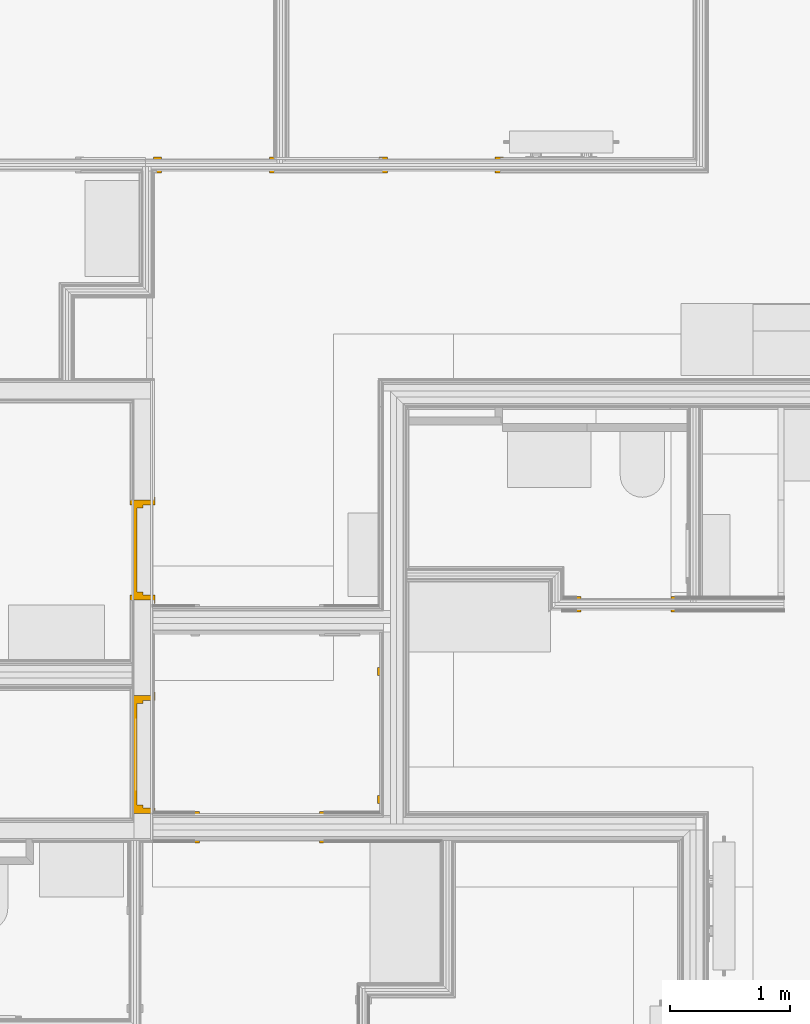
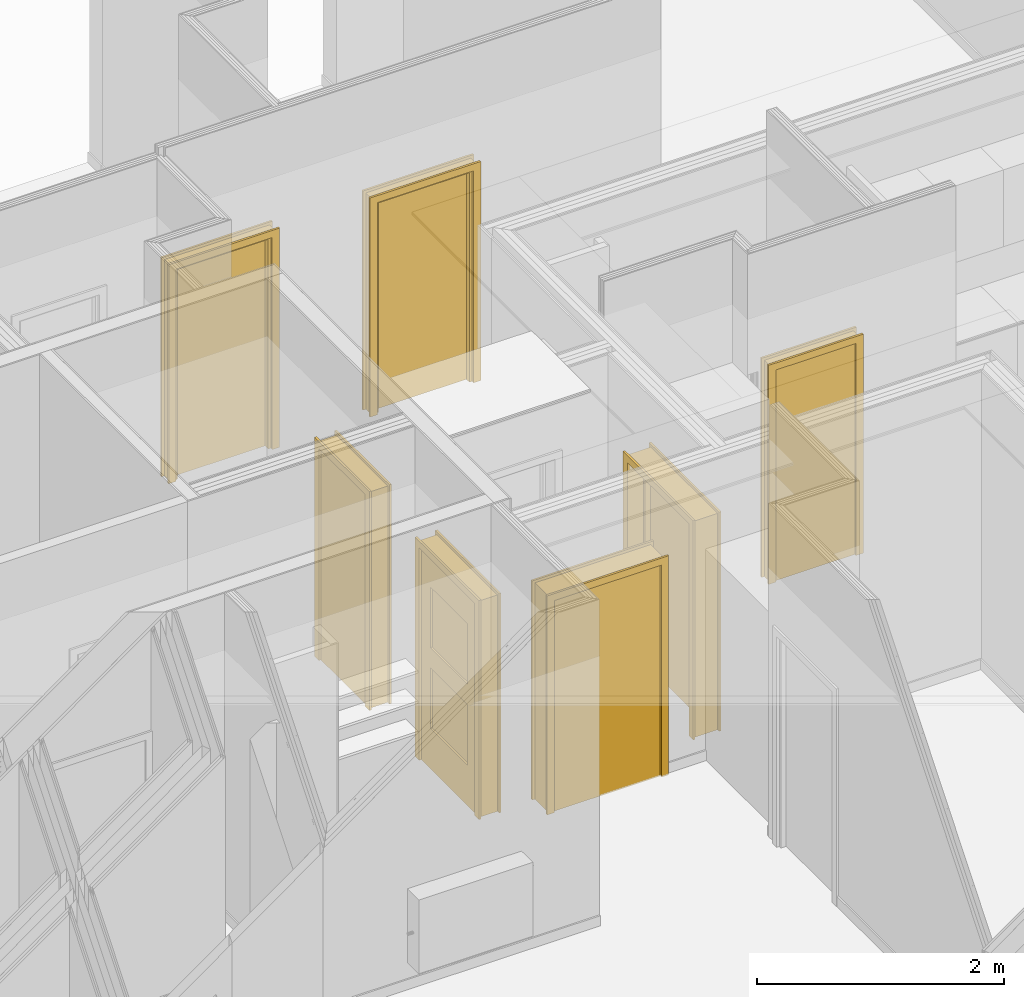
# One storey, part 54 of 64: 7 doors.
"""IFC2X3 building model written with IfcOpenShell, lengths in metres."""

from ifc_helpers import new_model, entity, si_unit, converted_unit, derived_unit, money_unit, direction, frame, origin_with_axes, place, context, subcontext, project, spatial, faceted_brep, material, type_object, element, save


model = new_model("IFC2X3")

# Units and contexts
model_context = context("Model", 3, precision=1e-05, world=origin_with_axes(), true_north=direction((0.0, 1.0)))
body_context = subcontext(model_context, "Body", "Model", "MODEL_VIEW", scale=1.0)
ifc_project = project(units=[si_unit("LENGTHUNIT", "METRE"), si_unit("AREAUNIT", "SQUARE_METRE"), si_unit("VOLUMEUNIT", "CUBIC_METRE"), si_unit("ABSORBEDDOSEUNIT", "GRAY"), si_unit("AMOUNTOFSUBSTANCEUNIT", "MOLE"), si_unit("DOSEEQUIVALENTUNIT", "SIEVERT"), si_unit("ELECTRICCAPACITANCEUNIT", "FARAD"), si_unit("ELECTRICCHARGEUNIT", "COULOMB"), si_unit("ELECTRICCONDUCTANCEUNIT", "SIEMENS"), si_unit("ELECTRICCURRENTUNIT", "AMPERE"), si_unit("ELECTRICRESISTANCEUNIT", "OHM"), si_unit("ELECTRICVOLTAGEUNIT", "VOLT"), si_unit("ENERGYUNIT", "JOULE"), si_unit("FORCEUNIT", "NEWTON"), si_unit("FREQUENCYUNIT", "HERTZ"), si_unit("ILLUMINANCEUNIT", "LUX"), si_unit("INDUCTANCEUNIT", "HENRY"), si_unit("LUMINOUSFLUXUNIT", "LUMEN"), si_unit("LUMINOUSINTENSITYUNIT", "CANDELA"), si_unit("MAGNETICFLUXDENSITYUNIT", "TESLA"), si_unit("MAGNETICFLUXUNIT", "WEBER"), si_unit("MASSUNIT", "GRAM"), converted_unit("PLANEANGLEUNIT", "degree", entity("IfcReal", 0.0174532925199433), si_unit("PLANEANGLEUNIT", "RADIAN"), dimensions=[0, 0, 0, 0, 0, 0, 0]), si_unit("POWERUNIT", "WATT"), si_unit("PRESSUREUNIT", "PASCAL"), si_unit("RADIOACTIVITYUNIT", "BECQUEREL"), si_unit("SOLIDANGLEUNIT", "STERADIAN"), si_unit("THERMODYNAMICTEMPERATUREUNIT", "KELVIN"), si_unit("TIMEUNIT", "SECOND"), derived_unit("ACCELERATIONUNIT", [(si_unit("LENGTHUNIT", "METRE"), 1), (si_unit("TIMEUNIT", "SECOND"), -2)]), derived_unit("ANGULARVELOCITYUNIT", [(converted_unit("PLANEANGLEUNIT", "degree", entity("IfcReal", 0.0174532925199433), si_unit("PLANEANGLEUNIT", "RADIAN"), dimensions=[0, 0, 0, 0, 0, 0, 0]), 1), (si_unit("TIMEUNIT", "SECOND"), -1)]), derived_unit("CURVATUREUNIT", [(converted_unit("PLANEANGLEUNIT", "degree", entity("IfcReal", 0.0174532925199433), si_unit("PLANEANGLEUNIT", "RADIAN"), dimensions=[0, 0, 0, 0, 0, 0, 0]), 1), (si_unit("LENGTHUNIT", "METRE"), -1)]), derived_unit("DYNAMICVISCOSITYUNIT", [(si_unit("PRESSUREUNIT", "PASCAL"), 1), (si_unit("TIMEUNIT", "SECOND"), 1)]), derived_unit("HEATFLUXDENSITYUNIT", [(si_unit("POWERUNIT", "WATT"), 1), (si_unit("LENGTHUNIT", "METRE"), -2)]), derived_unit("HEATINGVALUEUNIT", [(si_unit("ENERGYUNIT", "JOULE"), 1), (si_unit("MASSUNIT", "GRAM"), -1)]), derived_unit("INTEGERCOUNTRATEUNIT", [(si_unit("TIMEUNIT", "SECOND"), -1)]), derived_unit("IONCONCENTRATIONUNIT", [(si_unit("MASSUNIT", "GRAM"), 1), (si_unit("VOLUMEUNIT", "CUBIC_METRE"), -1)]), derived_unit("ISOTHERMALMOISTURECAPACITYUNIT", [(si_unit("VOLUMEUNIT", "CUBIC_METRE"), 1), (si_unit("MASSUNIT", "GRAM"), -1)]), derived_unit("KINEMATICVISCOSITYUNIT", [(si_unit("AREAUNIT", "SQUARE_METRE"), 1), (si_unit("TIMEUNIT", "SECOND"), -1)]), derived_unit("LINEARFORCEUNIT", [(si_unit("FORCEUNIT", "NEWTON"), 1), (si_unit("LENGTHUNIT", "METRE"), -1)]), derived_unit("LINEARMOMENTUNIT", [(si_unit("FORCEUNIT", "NEWTON"), 1), (si_unit("LENGTHUNIT", "METRE"), -1)]), derived_unit("LINEARSTIFFNESSUNIT", [(si_unit("FORCEUNIT", "NEWTON"), 1), (si_unit("LENGTHUNIT", "METRE"), -1)]), derived_unit("LINEARVELOCITYUNIT", [(si_unit("LENGTHUNIT", "METRE"), 1), (si_unit("TIMEUNIT", "SECOND"), -1)]), derived_unit("LUMINOUSINTENSITYDISTRIBUTIONUNIT", [(si_unit("LUMINOUSINTENSITYUNIT", "CANDELA"), 1), (si_unit("LUMINOUSFLUXUNIT", "LUMEN"), -1)]), derived_unit("MASSDENSITYUNIT", [(si_unit("MASSUNIT", "GRAM"), 1), (si_unit("VOLUMEUNIT", "CUBIC_METRE"), -1)]), derived_unit("MASSFLOWRATEUNIT", [(si_unit("MASSUNIT", "GRAM"), 1), (si_unit("TIMEUNIT", "SECOND"), -1)]), derived_unit("MASSPERLENGTHUNIT", [(si_unit("MASSUNIT", "GRAM"), 1), (si_unit("LENGTHUNIT", "METRE"), -1)]), derived_unit("MODULUSOFELASTICITYUNIT", [(si_unit("FORCEUNIT", "NEWTON"), 1), (si_unit("AREAUNIT", "SQUARE_METRE"), -1)]), derived_unit("MODULUSOFLINEARSUBGRADEREACTIONUNIT", [(si_unit("FORCEUNIT", "NEWTON"), 1), (si_unit("LENGTHUNIT", "METRE"), -2)]), derived_unit("MODULUSOFROTATIONALSUBGRADEREACTIONUNIT", [(si_unit("FORCEUNIT", "NEWTON"), 1), (si_unit("LENGTHUNIT", "METRE"), 1)]), derived_unit("MODULUSOFSUBGRADEREACTIONUNIT", [(si_unit("FORCEUNIT", "NEWTON"), 1), (si_unit("VOLUMEUNIT", "CUBIC_METRE"), -1)]), derived_unit("MOISTUREDIFFUSIVITYUNIT", [(si_unit("VOLUMEUNIT", "CUBIC_METRE"), 1), (si_unit("TIMEUNIT", "SECOND"), -1)]), derived_unit("MOLECULARWEIGHTUNIT", [(si_unit("MASSUNIT", "GRAM"), 1), (si_unit("AMOUNTOFSUBSTANCEUNIT", "MOLE"), -1)]), derived_unit("PLANARFORCEUNIT", [(si_unit("FORCEUNIT", "NEWTON"), 1), (si_unit("LENGTHUNIT", "METRE"), -2)]), derived_unit("ROTATIONALFREQUENCYUNIT", [(si_unit("TIMEUNIT", "SECOND"), -1)]), derived_unit("ROTATIONALMASSUNIT", [(si_unit("MASSUNIT", "GRAM"), 1), (si_unit("LENGTHUNIT", "METRE"), 2)]), derived_unit("ROTATIONALSTIFFNESSUNIT", [(si_unit("FORCEUNIT", "NEWTON"), 1), (si_unit("LENGTHUNIT", "METRE"), 1), (converted_unit("PLANEANGLEUNIT", "degree", entity("IfcReal", 0.0174532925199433), si_unit("PLANEANGLEUNIT", "RADIAN"), dimensions=[0, 0, 0, 0, 0, 0, 0]), -1)]), derived_unit("SECTIONAREAINTEGRALUNIT", [(si_unit("LENGTHUNIT", "METRE"), 5)]), derived_unit("SECTIONMODULUSUNIT", [(si_unit("LENGTHUNIT", "METRE"), 3)]), derived_unit("SHEARMODULUSUNIT", [(si_unit("FORCEUNIT", "NEWTON"), 1), (si_unit("AREAUNIT", "SQUARE_METRE"), -1)]), derived_unit("SOUNDPOWERUNIT", [(si_unit("ENERGYUNIT", "JOULE"), 1), (si_unit("TIMEUNIT", "SECOND"), -1)]), derived_unit("SPECIFICHEATCAPACITYUNIT", [(si_unit("FORCEUNIT", "NEWTON"), 1), (si_unit("MASSUNIT", "GRAM"), -1), (si_unit("THERMODYNAMICTEMPERATUREUNIT", "KELVIN"), -1)]), derived_unit("TEMPERATUREGRADIENTUNIT", [(si_unit("THERMODYNAMICTEMPERATUREUNIT", "KELVIN"), 1), (si_unit("LENGTHUNIT", "METRE"), -1)]), derived_unit("THERMALADMITTANCEUNIT", [(si_unit("POWERUNIT", "WATT"), 1), (si_unit("AREAUNIT", "SQUARE_METRE"), -1), (si_unit("THERMODYNAMICTEMPERATUREUNIT", "KELVIN"), -1)]), derived_unit("THERMALCONDUCTANCEUNIT", [(si_unit("POWERUNIT", "WATT"), 1), (si_unit("LENGTHUNIT", "METRE"), -1), (si_unit("THERMODYNAMICTEMPERATUREUNIT", "KELVIN"), -1)]), derived_unit("THERMALEXPANSIONCOEFFICIENTUNIT", [(si_unit("THERMODYNAMICTEMPERATUREUNIT", "KELVIN"), -1)]), derived_unit("THERMALRESISTANCEUNIT", [(si_unit("AREAUNIT", "SQUARE_METRE"), 1), (si_unit("POWERUNIT", "WATT"), -1)]), derived_unit("THERMALTRANSMITTANCEUNIT", [(si_unit("POWERUNIT", "WATT"), 1), (si_unit("AREAUNIT", "SQUARE_METRE"), -1), (si_unit("THERMODYNAMICTEMPERATUREUNIT", "KELVIN"), -1)]), derived_unit("TORQUEUNIT", [(si_unit("FORCEUNIT", "NEWTON"), 1), (si_unit("LENGTHUNIT", "METRE"), 1)]), derived_unit("VAPORPERMEABILITYUNIT", [(si_unit("MASSUNIT", "GRAM"), 1), (si_unit("TIMEUNIT", "SECOND"), -1)]), derived_unit("VOLUMETRICFLOWRATEUNIT", [(si_unit("VOLUMEUNIT", "CUBIC_METRE"), 1), (si_unit("TIMEUNIT", "SECOND"), -1)]), derived_unit("WARPINGCONSTANTUNIT", [(si_unit("LENGTHUNIT", "METRE"), 6)]), derived_unit("WARPINGMOMENTUNIT", [(si_unit("FORCEUNIT", "NEWTON"), 1), (si_unit("LENGTHUNIT", "METRE"), 2)]), money_unit("GBP")], contexts=[model_context])

# Site, building, storey, space
site_placement = place(None, origin_with_axes())
site = spatial("IfcSite", under=ifc_project, at=site_placement, Name="Site", CompositionType="ELEMENT")
building_placement = place(site_placement, origin_with_axes())
building = spatial("IfcBuilding", under=site, at=building_placement, Name="Building01", CompositionType="ELEMENT")
storey_placement = place(building_placement, frame((0.0, 0.0, 8.64), z_axis=(0.0, 0.0, 1.0), x_axis=(1.0, 0.0, 0.0)))
storey = spatial("IfcBuildingStorey", under=building, at=storey_placement, Name="2F", CompositionType="ELEMENT", Elevation=8.64)
space_1_placement = place(storey_placement, frame((20.122661, 5.205, 0.017975), z_axis=(0.0, 0.0, 1.0), x_axis=(1.0, 0.0, 0.0)))
space_1 = spatial("IfcSpace", under=storey, at=space_1_placement, Name="10", CompositionType="ELEMENT", InteriorOrExteriorSpace="NOTDEFINED")

# Door
ifc_material = material(Name="A_BSUK_Doors")
door_style_1 = type_object("IfcDoorStyle", Name="A-Doors-SingleFlush", ConstructionType="USERDEFINED", OperationType="SINGLE_SWING_RIGHT", ParameterTakesPrecedence=False, Sizeable=False)
door_1_placement = place(storey_placement, frame((20.122661, 6.357147, 0.0), z_axis=(0.0, 0.0, 1.0), x_axis=(0.0, -1.0, 0.0)))
element("IfcDoor", 1, at=door_1_placement, inside=space_1, type_object=door_style_1, material=ifc_material, Name="2.10", ObjectType="A-Doors-SingleFlush", OverallHeight=2.16900000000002, OverallWidth=1.13800000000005, context=body_context, shape_type="Brep", body=[
    faceted_brep([(1.0, -0.244, 0.0), (1.069, -0.244, 0.0), (1.069, -0.244, 2.169), (-0.069, -0.244, 2.169), (-0.069, -0.244, 0.0), (0.0, -0.244, 0.0), (0.0, -0.244, 2.1), (1.0, -0.244, 2.1), (-0.069, -0.225, 0.0), (-0.069, -0.225, 2.169), (1.069, -0.225, 2.169), (1.069, -0.225, 0.0), (1.0, 0.019, 0.0), (1.069, 0.019, 0.0), (1.069, 0.0, 0.0), (1.042, 0.0, 0.0), (1.042, -0.225, 0.0), (1.0, 0.019, 2.1), (0.0, 0.019, 2.1), (0.0, 0.019, 0.0), (-0.069, 0.019, 0.0), (-0.069, 0.019, 2.169), (1.069, 0.019, 2.169), (1.069, 0.0, 2.169), (1.042, -0.225, 2.142), (1.042, 0.0, 2.142), (-0.042, -0.225, 2.142), (-0.042, 0.0, 2.142), (-0.042, -0.225, 0.0), (-0.042, 0.0, 0.0), (-0.069, 0.0, 2.169), (-0.069, 0.0, 0.0)], [[[0, 1, 2, 3, 4, 5, 6, 7]], [[8, 4, 3, 9]], [[10, 2, 1, 11]], [[9, 3, 2, 10]], [[12, 13, 14, 15, 16, 11, 1, 0]], [[7, 17, 12, 0]], [[6, 18, 17, 7]], [[18, 19, 20, 21, 22, 13, 12, 17]], [[5, 19, 18, 6]], [[13, 22, 23, 14]], [[24, 16, 15, 25]], [[26, 24, 25, 27]], [[11, 16, 24, 26, 28, 8, 9, 10]], [[27, 29, 28, 26]], [[25, 15, 14, 23, 30, 31, 29, 27]], [[5, 4, 8, 28, 29, 31, 20, 19]], [[30, 21, 20, 31]], [[23, 22, 21, 30]]]),
    faceted_brep([(0.0, -0.09, 2.1), (0.0, -0.04, 2.1), (0.0, -0.04, 0.0), (0.0, -0.09, 0.0), (0.975, -0.09, 0.0), (1.0, -0.09, 0.0), (1.0, -0.09, 2.1), (0.025, -0.09, 0.0), (0.025, -0.09, 2.075), (0.975, -0.09, 2.075), (0.975, -0.04, 0.0), (1.0, -0.04, 0.0), (1.0, -0.04, 2.1), (0.025, -0.04, 2.075), (0.025, -0.04, 0.0), (0.975, -0.04, 2.075)], [[[0, 1, 2, 3]], [[4, 5, 6, 0, 3, 7, 8, 9]], [[10, 11, 5, 4]], [[6, 12, 1, 0]], [[5, 11, 12, 6]], [[13, 14, 2, 1, 12, 11, 10, 15]], [[7, 14, 13, 8]], [[7, 3, 2, 14]], [[9, 15, 10, 4]], [[8, 13, 15, 9]]]),
    faceted_brep([(1.0, -0.04, 0.0), (1.0, 0.0, 0.0), (1.0, 0.0, 2.1), (1.0, -0.04, 2.1), (0.0, -0.04, 2.1), (0.0, 0.0, 2.1), (0.0, 0.0, 0.0), (0.0, -0.04, 0.0)], [[[0, 1, 2, 3]], [[4, 5, 6, 7]], [[7, 6, 1, 0]], [[3, 4, 7, 0]], [[3, 2, 5, 4]], [[1, 6, 5, 2]]]),
])

# Space
space_2_placement = place(storey_placement, frame((17.9025, 3.385, 0.017975), z_axis=(0.0, 0.0, 1.0), x_axis=(-1.0, 0.0, 0.0)))
space_2 = spatial("IfcSpace", under=storey, at=space_2_placement, Name="k/d/l", CompositionType="ELEMENT", InteriorOrExteriorSpace="NOTDEFINED")

# Door
door_style_2 = type_object("IfcDoorStyle", Name="A-Doors-SingleFlush", ConstructionType="USERDEFINED", OperationType="SINGLE_SWING_LEFT", ParameterTakesPrecedence=False, Sizeable=False)
door_2_placement = place(storey_placement, frame((19.392, 4.98, 0.0), z_axis=(0.0, 0.0, 1.0), x_axis=(-1.0, 0.0, 0.0)))
element("IfcDoor", 2, at=door_2_placement, inside=space_2, type_object=door_style_2, material=ifc_material, Name="2.12", ObjectType="A-Doors-SingleFlush", OverallHeight=2.16900000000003, OverallWidth=1.13800000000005, context=body_context, shape_type="Brep", body=[
    faceted_brep([(0.0, -0.244, 2.1), (1.0, -0.244, 2.1), (1.0, -0.244, 0.0), (1.069, -0.244, 0.0), (1.069, -0.244, 2.169), (-0.069, -0.244, 2.169), (-0.069, -0.244, 0.0), (0.0, -0.244, 0.0), (1.069, -0.225, 2.169), (1.069, -0.225, 0.0), (-0.069, -0.225, 0.0), (-0.069, -0.225, 2.169), (-0.042, -0.225, 0.0), (-0.042, 0.0, 0.0), (-0.069, 0.0, 0.0), (-0.069, 0.019, 0.0), (0.0, 0.019, 0.0), (0.0, 0.019, 2.1), (1.0, 0.019, 2.1), (-0.069, 0.019, 2.169), (1.069, 0.019, 2.169), (1.069, 0.019, 0.0), (1.0, 0.019, 0.0), (-0.069, 0.0, 2.169), (-0.042, 0.0, 2.142), (-0.042, -0.225, 2.142), (1.042, 0.0, 2.142), (1.042, -0.225, 2.142), (1.042, -0.225, 0.0), (1.042, 0.0, 0.0), (1.069, 0.0, 0.0), (1.069, 0.0, 2.169)], [[[0, 1, 2, 3, 4, 5, 6, 7]], [[8, 4, 3, 9]], [[10, 6, 5, 11]], [[11, 5, 4, 8]], [[7, 6, 10, 12, 13, 14, 15, 16]], [[7, 16, 17, 0]], [[0, 17, 18, 1]], [[17, 16, 15, 19, 20, 21, 22, 18]], [[1, 18, 22, 2]], [[14, 23, 19, 15]], [[24, 13, 12, 25]], [[26, 24, 25, 27]], [[11, 8, 9, 28, 27, 25, 12, 10]], [[27, 28, 29, 26]], [[26, 29, 30, 31, 23, 14, 13, 24]], [[22, 21, 30, 29, 28, 9, 3, 2]], [[30, 21, 20, 31]], [[31, 20, 19, 23]]]),
    faceted_brep([(1.0, -0.09, 0.0), (1.0, -0.04, 0.0), (1.0, -0.04, 2.1), (1.0, -0.09, 2.1), (0.025, -0.09, 2.075), (0.975, -0.09, 2.075), (0.975, -0.09, 0.0), (0.0, -0.09, 2.1), (0.0, -0.09, 0.0), (0.025, -0.09, 0.0), (0.0, -0.04, 0.0), (0.025, -0.04, 0.0), (0.0, -0.04, 2.1), (0.025, -0.04, 2.075), (0.975, -0.04, 0.0), (0.975, -0.04, 2.075)], [[[0, 1, 2, 3]], [[4, 5, 6, 0, 3, 7, 8, 9]], [[9, 8, 10, 11]], [[3, 2, 12, 7]], [[7, 12, 10, 8]], [[13, 11, 10, 12, 2, 1, 14, 15]], [[5, 15, 14, 6]], [[14, 1, 0, 6]], [[9, 11, 13, 4]], [[4, 13, 15, 5]]]),
    faceted_brep([(0.0, -0.04, 2.1), (0.0, 0.0, 2.1), (0.0, 0.0, 0.0), (0.0, -0.04, 0.0), (1.0, -0.04, 0.0), (1.0, 0.0, 0.0), (1.0, 0.0, 2.1), (1.0, -0.04, 2.1)], [[[0, 1, 2, 3]], [[4, 5, 6, 7]], [[3, 2, 5, 4]], [[3, 4, 7, 0]], [[7, 6, 1, 0]], [[1, 6, 5, 2]]]),
])

# Space
space_3_placement = place(storey_placement, frame((15.83, 8.82, 0.017975), z_axis=(0.0, 0.0, 1.0), x_axis=(0.0, -1.0, 0.0)))
space_3 = spatial("IfcSpace", under=storey, at=space_3_placement, Name="09", CompositionType="ELEMENT", InteriorOrExteriorSpace="NOTDEFINED")

# Doors
door_style_3 = type_object("IfcDoorStyle", Name="A-Doors-SingleFlush", ConstructionType="USERDEFINED", OperationType="SINGLE_SWING_LEFT", ParameterTakesPrecedence=False, Sizeable=False)
door_3_placement = place(storey_placement, frame((19.960284, 10.665, 0.0), z_axis=(0.0, 0.0, 1.0), x_axis=(1.0, 0.0, 0.0)))
element("IfcDoor", 3, at=door_3_placement, inside=space_3, type_object=door_style_3, material=ifc_material, Name="2.07", ObjectType="A-Doors-SingleFlush", OverallHeight=2.16900000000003, OverallWidth=1.03800000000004, context=body_context, shape_type="Brep", body=[
    faceted_brep([(0.0, -0.114, 2.1), (0.9, -0.114, 2.1), (0.9, -0.114, 0.0), (0.969, -0.114, 0.0), (0.969, -0.114, 2.169), (-0.069, -0.114, 2.169), (-0.069, -0.114, 0.0), (0.0, -0.114, 0.0), (0.969, -0.095, 2.169), (0.969, -0.095, 0.0), (-0.069, -0.095, 0.0), (-0.069, -0.095, 2.169), (-0.042, -0.095, 0.0), (-0.042, 0.0, 0.0), (-0.069, 0.0, 0.0), (-0.069, 0.019, 0.0), (0.0, 0.019, 0.0), (0.0, 0.019, 2.1), (0.9, 0.019, 2.1), (-0.069, 0.019, 2.169), (0.969, 0.019, 2.169), (0.969, 0.019, 0.0), (0.9, 0.019, 0.0), (-0.069, 0.0, 2.169), (-0.042, 0.0, 2.142), (-0.042, -0.095, 2.142), (0.942, 0.0, 2.142), (0.942, -0.095, 2.142), (0.942, -0.095, 0.0), (0.942, 0.0, 0.0), (0.969, 0.0, 0.0), (0.969, 0.0, 2.169)], [[[0, 1, 2, 3, 4, 5, 6, 7]], [[8, 4, 3, 9]], [[10, 6, 5, 11]], [[11, 5, 4, 8]], [[7, 6, 10, 12, 13, 14, 15, 16]], [[7, 16, 17, 0]], [[0, 17, 18, 1]], [[17, 16, 15, 19, 20, 21, 22, 18]], [[1, 18, 22, 2]], [[14, 23, 19, 15]], [[24, 13, 12, 25]], [[26, 24, 25, 27]], [[11, 8, 9, 28, 27, 25, 12, 10]], [[27, 28, 29, 26]], [[26, 29, 30, 31, 23, 14, 13, 24]], [[22, 21, 30, 29, 28, 9, 3, 2]], [[30, 21, 20, 31]], [[31, 20, 19, 23]]]),
    faceted_brep([(0.9, -0.09, 0.0), (0.9, -0.04, 0.0), (0.9, -0.04, 2.1), (0.9, -0.09, 2.1), (0.025, -0.09, 2.075), (0.875, -0.09, 2.075), (0.875, -0.09, 0.0), (0.0, -0.09, 2.1), (0.0, -0.09, 0.0), (0.025, -0.09, 0.0), (0.0, -0.04, 0.0), (0.025, -0.04, 0.0), (0.0, -0.04, 2.1), (0.025, -0.04, 2.075), (0.875, -0.04, 0.0), (0.875, -0.04, 2.075)], [[[0, 1, 2, 3]], [[4, 5, 6, 0, 3, 7, 8, 9]], [[9, 8, 10, 11]], [[3, 2, 12, 7]], [[7, 12, 10, 8]], [[13, 11, 10, 12, 2, 1, 14, 15]], [[5, 15, 14, 6]], [[14, 1, 0, 6]], [[9, 11, 13, 4]], [[4, 13, 15, 5]]]),
    faceted_brep([(0.0, -0.04, 2.1), (0.0, 0.0, 2.1), (0.0, 0.0, 0.0), (0.0, -0.04, 0.0), (0.9, -0.04, 0.0), (0.9, 0.0, 0.0), (0.9, 0.0, 2.1), (0.9, -0.04, 2.1)], [[[0, 1, 2, 3]], [[4, 5, 6, 7]], [[3, 2, 5, 4]], [[3, 4, 7, 0]], [[7, 6, 1, 0]], [[1, 6, 5, 2]]]),
])
door_style_4 = type_object("IfcDoorStyle", Name="A-Doors-SingleFlush", ConstructionType="USERDEFINED", OperationType="SINGLE_SWING_RIGHT", ParameterTakesPrecedence=False, Sizeable=False)
door_4_placement = place(storey_placement, frame((18.075398, 10.665, 0.0), z_axis=(0.0, 0.0, 1.0), x_axis=(1.0, 0.0, 0.0)))
element("IfcDoor", 4, at=door_4_placement, inside=space_3, type_object=door_style_4, material=ifc_material, Name="2.06", ObjectType="A-Doors-SingleFlush", OverallHeight=2.16900000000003, OverallWidth=1.03800000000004, context=body_context, shape_type="Brep", body=[
    faceted_brep([(0.9, -0.114, 0.0), (0.969, -0.114, 0.0), (0.969, -0.114, 2.169), (-0.069, -0.114, 2.169), (-0.069, -0.114, 0.0), (0.0, -0.114, 0.0), (0.0, -0.114, 2.1), (0.9, -0.114, 2.1), (-0.069, -0.095, 0.0), (-0.069, -0.095, 2.169), (0.969, -0.095, 2.169), (0.969, -0.095, 0.0), (0.9, 0.019, 0.0), (0.969, 0.019, 0.0), (0.969, 0.0, 0.0), (0.942, 0.0, 0.0), (0.942, -0.095, 0.0), (0.9, 0.019, 2.1), (0.0, 0.019, 2.1), (0.0, 0.019, 0.0), (-0.069, 0.019, 0.0), (-0.069, 0.019, 2.169), (0.969, 0.019, 2.169), (0.969, 0.0, 2.169), (0.942, -0.095, 2.142), (0.942, 0.0, 2.142), (-0.042, -0.095, 2.142), (-0.042, 0.0, 2.142), (-0.042, -0.095, 0.0), (-0.042, 0.0, 0.0), (-0.069, 0.0, 2.169), (-0.069, 0.0, 0.0)], [[[0, 1, 2, 3, 4, 5, 6, 7]], [[8, 4, 3, 9]], [[10, 2, 1, 11]], [[9, 3, 2, 10]], [[12, 13, 14, 15, 16, 11, 1, 0]], [[7, 17, 12, 0]], [[6, 18, 17, 7]], [[18, 19, 20, 21, 22, 13, 12, 17]], [[5, 19, 18, 6]], [[13, 22, 23, 14]], [[24, 16, 15, 25]], [[26, 24, 25, 27]], [[11, 16, 24, 26, 28, 8, 9, 10]], [[27, 29, 28, 26]], [[25, 15, 14, 23, 30, 31, 29, 27]], [[5, 4, 8, 28, 29, 31, 20, 19]], [[30, 21, 20, 31]], [[23, 22, 21, 30]]]),
    faceted_brep([(0.0, -0.09, 2.1), (0.0, -0.04, 2.1), (0.0, -0.04, 0.0), (0.0, -0.09, 0.0), (0.875, -0.09, 0.0), (0.9, -0.09, 0.0), (0.9, -0.09, 2.1), (0.025, -0.09, 0.0), (0.025, -0.09, 2.075), (0.875, -0.09, 2.075), (0.875, -0.04, 0.0), (0.9, -0.04, 0.0), (0.9, -0.04, 2.1), (0.025, -0.04, 2.075), (0.025, -0.04, 0.0), (0.875, -0.04, 2.075)], [[[0, 1, 2, 3]], [[4, 5, 6, 0, 3, 7, 8, 9]], [[10, 11, 5, 4]], [[6, 12, 1, 0]], [[5, 11, 12, 6]], [[13, 14, 2, 1, 12, 11, 10, 15]], [[7, 14, 13, 8]], [[7, 3, 2, 14]], [[9, 15, 10, 4]], [[8, 13, 15, 9]]]),
    faceted_brep([(0.9, -0.04, 0.0), (0.9, 0.0, 0.0), (0.9, 0.0, 2.1), (0.9, -0.04, 2.1), (0.0, -0.04, 2.1), (0.0, 0.0, 2.1), (0.0, 0.0, 0.0), (0.0, -0.04, 0.0)], [[[0, 1, 2, 3]], [[4, 5, 6, 7]], [[7, 6, 1, 0]], [[3, 4, 7, 0]], [[3, 2, 5, 4]], [[1, 6, 5, 2]]]),
])
door_5_placement = place(storey_placement, frame((22.326661, 6.905, 0.0), z_axis=(0.0, 0.0, 1.0), x_axis=(-1.0, 0.0, 0.0)))
element("IfcDoor", 5, at=door_5_placement, inside=space_1, type_object=door_style_4, material=ifc_material, Name="2.11", ObjectType="A-Doors-SingleFlush", OverallHeight=2.16900000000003, OverallWidth=0.888000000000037, context=body_context, shape_type="Brep", body=[
    faceted_brep([(0.75, -0.114, 0.0), (0.819, -0.114, 0.0), (0.819, -0.114, 2.169), (-0.069, -0.114, 2.169), (-0.069, -0.114, 0.0), (0.0, -0.114, 0.0), (0.0, -0.114, 2.1), (0.75, -0.114, 2.1), (-0.069, -0.095, 0.0), (-0.069, -0.095, 2.169), (0.819, -0.095, 2.169), (0.819, -0.095, 0.0), (0.75, 0.019, 0.0), (0.819, 0.019, 0.0), (0.819, 0.0, 0.0), (0.792, 0.0, 0.0), (0.792, -0.095, 0.0), (0.75, 0.019, 2.1), (0.0, 0.019, 2.1), (0.0, 0.019, 0.0), (-0.069, 0.019, 0.0), (-0.069, 0.019, 2.169), (0.819, 0.019, 2.169), (0.819, 0.0, 2.169), (0.792, -0.095, 2.142), (0.792, 0.0, 2.142), (-0.042, -0.095, 2.142), (-0.042, 0.0, 2.142), (-0.042, -0.095, 0.0), (-0.042, 0.0, 0.0), (-0.069, 0.0, 2.169), (-0.069, 0.0, 0.0)], [[[0, 1, 2, 3, 4, 5, 6, 7]], [[8, 4, 3, 9]], [[10, 2, 1, 11]], [[9, 3, 2, 10]], [[12, 13, 14, 15, 16, 11, 1, 0]], [[7, 17, 12, 0]], [[6, 18, 17, 7]], [[18, 19, 20, 21, 22, 13, 12, 17]], [[5, 19, 18, 6]], [[13, 22, 23, 14]], [[24, 16, 15, 25]], [[26, 24, 25, 27]], [[11, 16, 24, 26, 28, 8, 9, 10]], [[27, 29, 28, 26]], [[25, 15, 14, 23, 30, 31, 29, 27]], [[5, 4, 8, 28, 29, 31, 20, 19]], [[30, 21, 20, 31]], [[23, 22, 21, 30]]]),
    faceted_brep([(0.0, -0.09, 2.1), (0.0, -0.04, 2.1), (0.0, -0.04, 0.0), (0.0, -0.09, 0.0), (0.725, -0.09, 0.0), (0.75, -0.09, 0.0), (0.75, -0.09, 2.1), (0.025, -0.09, 0.0), (0.025, -0.09, 2.075), (0.725, -0.09, 2.075), (0.725, -0.04, 0.0), (0.75, -0.04, 0.0), (0.75, -0.04, 2.1), (0.025, -0.04, 2.075), (0.025, -0.04, 0.0), (0.725, -0.04, 2.075)], [[[0, 1, 2, 3]], [[4, 5, 6, 0, 3, 7, 8, 9]], [[10, 11, 5, 4]], [[6, 12, 1, 0]], [[5, 11, 12, 6]], [[13, 14, 2, 1, 12, 11, 10, 15]], [[7, 14, 13, 8]], [[7, 3, 2, 14]], [[9, 15, 10, 4]], [[8, 13, 15, 9]]]),
    faceted_brep([(0.75, -0.04, 0.0), (0.75, 0.0, 0.0), (0.75, 0.0, 2.1), (0.75, -0.04, 2.1), (0.0, -0.04, 2.1), (0.0, 0.0, 2.1), (0.0, 0.0, 0.0), (0.0, -0.04, 0.0)], [[[0, 1, 2, 3]], [[4, 5, 6, 7]], [[7, 6, 1, 0]], [[3, 4, 7, 0]], [[3, 2, 5, 4]], [[1, 6, 5, 2]]]),
])
door_style_5 = type_object("IfcDoorStyle", Name="A-Doors-SingleFlush", ConstructionType="USERDEFINED", OperationType="SINGLE_SWING_RIGHT", ParameterTakesPrecedence=False, Sizeable=False)
door_6_placement = place(storey_placement, frame((17.83, 7.02888, 0.0), z_axis=(0.0, 0.0, 1.0), x_axis=(0.0, 1.0, 0.0)))
element("IfcDoor", 6, at=door_6_placement, inside=space_3, type_object=door_style_5, material=ifc_material, Name="2.08", ObjectType="A-Doors-SingleFlush", OverallHeight=2.16900000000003, OverallWidth=0.888000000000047, context=body_context, shape_type="Brep", body=[
    faceted_brep([(0.75, -0.189, 0.0), (0.819, -0.189, 0.0), (0.819, -0.189, 2.169), (-0.069, -0.189, 2.169), (-0.069, -0.189, 0.0), (0.0, -0.189, 0.0), (0.0, -0.189, 2.1), (0.75, -0.189, 2.1), (-0.069, -0.17, 0.0), (-0.069, -0.17, 2.169), (0.819, -0.17, 2.169), (0.819, -0.17, 0.0), (0.75, 0.019, 0.0), (0.819, 0.019, 0.0), (0.819, 0.0, 0.0), (0.792, 0.0, 0.0), (0.792, -0.17, 0.0), (0.75, 0.019, 2.1), (0.0, 0.019, 2.1), (0.0, 0.019, 0.0), (-0.069, 0.019, 0.0), (-0.069, 0.019, 2.169), (0.819, 0.019, 2.169), (0.819, 0.0, 2.169), (0.792, -0.17, 2.142), (0.792, 0.0, 2.142), (-0.042, -0.17, 2.142), (-0.042, 0.0, 2.142), (-0.042, -0.17, 0.0), (-0.042, 0.0, 0.0), (-0.069, 0.0, 2.169), (-0.069, 0.0, 0.0)], [[[0, 1, 2, 3, 4, 5, 6, 7]], [[8, 4, 3, 9]], [[10, 2, 1, 11]], [[9, 3, 2, 10]], [[12, 13, 14, 15, 16, 11, 1, 0]], [[7, 17, 12, 0]], [[6, 18, 17, 7]], [[18, 19, 20, 21, 22, 13, 12, 17]], [[5, 19, 18, 6]], [[13, 22, 23, 14]], [[24, 16, 15, 25]], [[26, 24, 25, 27]], [[11, 16, 24, 26, 28, 8, 9, 10]], [[27, 29, 28, 26]], [[25, 15, 14, 23, 30, 31, 29, 27]], [[5, 4, 8, 28, 29, 31, 20, 19]], [[30, 21, 20, 31]], [[23, 22, 21, 30]]]),
    faceted_brep([(0.0, -0.09, 2.1), (0.0, -0.04, 2.1), (0.0, -0.04, 0.0), (0.0, -0.09, 0.0), (0.725, -0.09, 0.0), (0.75, -0.09, 0.0), (0.75, -0.09, 2.1), (0.025, -0.09, 0.0), (0.025, -0.09, 2.075), (0.725, -0.09, 2.075), (0.725, -0.04, 0.0), (0.75, -0.04, 0.0), (0.75, -0.04, 2.1), (0.025, -0.04, 2.075), (0.025, -0.04, 0.0), (0.725, -0.04, 2.075)], [[[0, 1, 2, 3]], [[4, 5, 6, 0, 3, 7, 8, 9]], [[10, 11, 5, 4]], [[6, 12, 1, 0]], [[5, 11, 12, 6]], [[13, 14, 2, 1, 12, 11, 10, 15]], [[7, 14, 13, 8]], [[7, 3, 2, 14]], [[9, 15, 10, 4]], [[8, 13, 15, 9]]]),
    faceted_brep([(0.75, -0.04, 0.0), (0.75, 0.0, 0.0), (0.75, 0.0, 2.1), (0.75, -0.04, 2.1), (0.0, -0.04, 2.1), (0.0, 0.0, 2.1), (0.0, 0.0, 0.0), (0.0, -0.04, 0.0)], [[[0, 1, 2, 3]], [[4, 5, 6, 7]], [[7, 6, 1, 0]], [[3, 4, 7, 0]], [[3, 2, 5, 4]], [[1, 6, 5, 2]]]),
])

# Space
space_4_placement = place(storey_placement, frame((9.227386, 6.85, 0.017932), z_axis=(0.0, 0.0, 1.0), x_axis=(0.0, -1.0, 0.0)))
space_4 = spatial("IfcSpace", under=storey, at=space_4_placement, Name="hall (vented)", CompositionType="ELEMENT", InteriorOrExteriorSpace="NOTDEFINED")

# Door
door_style_6 = type_object("IfcDoorStyle", Name="A-Doors-SingleVisionPanels", ConstructionType="USERDEFINED", OperationType="SINGLE_SWING_LEFT", ParameterTakesPrecedence=False, Sizeable=False)
door_7_placement = place(storey_placement, frame((17.83, 5.25, 0.0), z_axis=(0.0, 0.0, 1.0), x_axis=(0.0, 1.0, 0.0)))
element("IfcDoor", 7, at=door_7_placement, inside=space_4, type_object=door_style_6, material=ifc_material, Name="2.02", ObjectType="A-Doors-SingleVisionPanels", OverallHeight=2.16900000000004, OverallWidth=1.03800000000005, context=body_context, shape_type="Brep", body=[
    faceted_brep([(0.0, -0.189, 2.1), (0.9, -0.189, 2.1), (0.9, -0.189, 0.0), (0.969, -0.189, 0.0), (0.969, -0.189, 2.169), (-0.069, -0.189, 2.169), (-0.069, -0.189, 0.0), (0.0, -0.189, 0.0), (0.969, -0.17, 2.169), (0.969, -0.17, 0.0), (-0.069, -0.17, 0.0), (-0.069, -0.17, 2.169), (-0.042, -0.17, 0.0), (-0.042, 0.0, 0.0), (-0.069, 0.0, 0.0), (-0.069, 0.019, 0.0), (0.0, 0.019, 0.0), (0.0, 0.019, 2.1), (0.9, 0.019, 2.1), (-0.069, 0.019, 2.169), (0.969, 0.019, 2.169), (0.969, 0.019, 0.0), (0.9, 0.019, 0.0), (-0.069, 0.0, 2.169), (-0.042, 0.0, 2.142), (-0.042, -0.17, 2.142), (0.942, 0.0, 2.142), (0.942, -0.17, 2.142), (0.942, -0.17, 0.0), (0.942, 0.0, 0.0), (0.969, 0.0, 0.0), (0.969, 0.0, 2.169)], [[[0, 1, 2, 3, 4, 5, 6, 7]], [[8, 4, 3, 9]], [[10, 6, 5, 11]], [[11, 5, 4, 8]], [[7, 6, 10, 12, 13, 14, 15, 16]], [[7, 16, 17, 0]], [[0, 17, 18, 1]], [[17, 16, 15, 19, 20, 21, 22, 18]], [[1, 18, 22, 2]], [[14, 23, 19, 15]], [[24, 13, 12, 25]], [[26, 24, 25, 27]], [[11, 8, 9, 28, 27, 25, 12, 10]], [[27, 28, 29, 26]], [[26, 29, 30, 31, 23, 14, 13, 24]], [[22, 21, 30, 29, 28, 9, 3, 2]], [[30, 21, 20, 31]], [[31, 20, 19, 23]]]),
    faceted_brep([(0.9, -0.09, 0.0), (0.9, -0.04, 0.0), (0.9, -0.04, 2.1), (0.9, -0.09, 2.1), (0.025, -0.09, 2.075), (0.875, -0.09, 2.075), (0.875, -0.09, 0.0), (0.0, -0.09, 2.1), (0.0, -0.09, 0.0), (0.025, -0.09, 0.0), (0.0, -0.04, 0.0), (0.025, -0.04, 0.0), (0.0, -0.04, 2.1), (0.025, -0.04, 2.075), (0.875, -0.04, 0.0), (0.875, -0.04, 2.075)], [[[0, 1, 2, 3]], [[4, 5, 6, 0, 3, 7, 8, 9]], [[9, 8, 10, 11]], [[3, 2, 12, 7]], [[7, 12, 10, 8]], [[13, 11, 10, 12, 2, 1, 14, 15]], [[5, 15, 14, 6]], [[14, 1, 0, 6]], [[9, 11, 13, 4]], [[4, 13, 15, 5]]]),
    faceted_brep([(0.15, -0.017, 0.4), (0.15, -0.023, 0.4), (0.15, -0.023, 1.0), (0.15, -0.017, 1.0), (0.75, -0.017, 1.0), (0.75, -0.023, 1.0), (0.75, -0.023, 0.4), (0.75, -0.017, 0.4)], [[[0, 1, 2, 3]], [[4, 5, 6, 7]], [[3, 2, 5, 4]], [[3, 4, 7, 0]], [[7, 6, 1, 0]], [[1, 6, 5, 2]]]),
    faceted_brep([(0.15, -0.017, 1.2), (0.15, -0.023, 1.2), (0.15, -0.023, 1.8), (0.15, -0.017, 1.8), (0.75, -0.017, 1.8), (0.75, -0.023, 1.8), (0.75, -0.023, 1.2), (0.75, -0.017, 1.2)], [[[0, 1, 2, 3]], [[4, 5, 6, 7]], [[3, 2, 5, 4]], [[3, 4, 7, 0]], [[7, 6, 1, 0]], [[1, 6, 5, 2]]]),
    faceted_brep([(0.15, -0.04, 1.8), (0.15, 0.0, 1.8), (0.75, 0.0, 1.8), (0.75, -0.04, 1.8), (0.75, -0.04, 1.0), (0.75, 0.0, 1.0), (0.75, 0.0, 0.4), (0.75, -0.04, 0.4), (0.15, 0.0, 0.4), (0.15, -0.04, 0.4), (0.15, 0.0, 1.0), (0.15, -0.04, 1.0), (0.9, 0.0, 0.0), (0.0, 0.0, 0.0), (0.0, 0.0, 2.1), (0.9, 0.0, 2.1), (0.15, 0.0, 1.2), (0.75, 0.0, 1.2), (0.9, -0.04, 0.0), (0.9, -0.04, 2.1), (0.0, -0.04, 2.1), (0.0, -0.04, 0.0), (0.75, -0.04, 1.2), (0.15, -0.04, 1.2)], [[[0, 1, 2, 3]], [[4, 5, 6, 7]], [[7, 6, 8, 9]], [[9, 8, 10, 11]], [[11, 10, 5, 4]], [[12, 13, 14, 15], [5, 10, 8, 6], [2, 1, 16, 17]], [[18, 12, 15, 19]], [[19, 15, 14, 20]], [[20, 14, 13, 21]], [[21, 13, 12, 18]], [[3, 2, 17, 22]], [[22, 17, 16, 23]], [[23, 16, 1, 0]], [[19, 20, 21, 18], [9, 11, 4, 7], [23, 0, 3, 22]]]),
])

save(model, "model.ifc")
